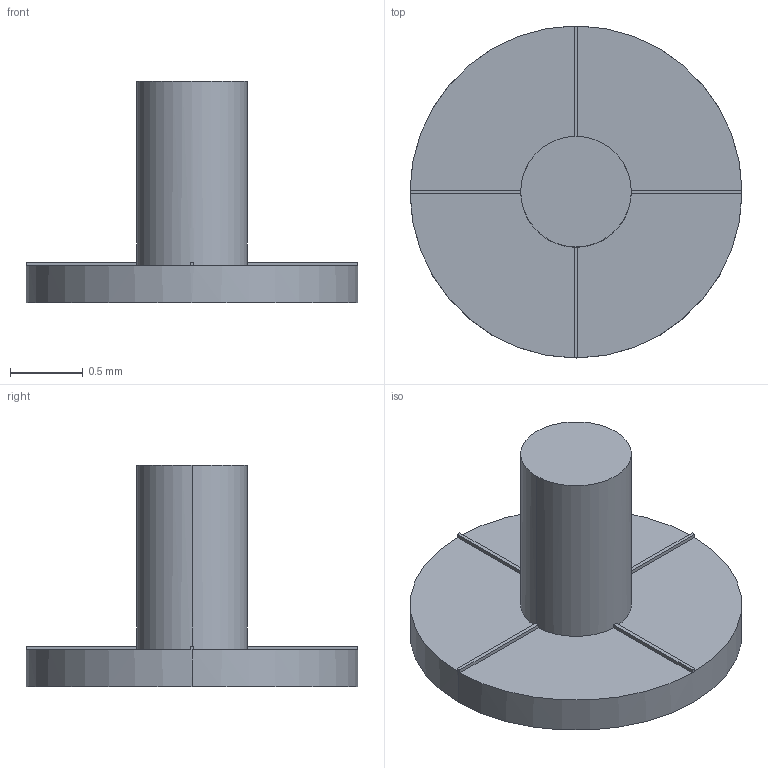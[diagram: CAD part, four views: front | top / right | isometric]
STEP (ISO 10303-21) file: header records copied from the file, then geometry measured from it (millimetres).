
FILE_DESCRIPTION((''),'2;1');
FILE_NAME('CONTACT_SIM_DUMMY-22D','2020-09-24T20:59:29',('ccole'),(''),'CREO PARAMETRIC BY PTC INC, 2019292','CREO PARAMETRIC BY PTC INC, 2019292','');
FILE_SCHEMA(('CONFIG_CONTROL_DESIGN'));
Length unit declared in the file: inch
Products named in the file (1): CONTACT_SIM_DUMMY-22D
Bounding box: 2.29 x 2.29 x 1.52 mm (x, y, z)
Volume: 1.6 mm3; surface area: 13.2 mm2
Topology: 1 solids, 1 shells, 26 faces, 64 edges, 40 vertices
Faces by surface type: plane 22, cylinder 4
Entity records: 802 total; most frequent: CARTESIAN_POINT 142, DIRECTION 128, ORIENTED_EDGE 128, EDGE_CURVE 64, AXIS2_PLACEMENT_3D 44, VECTOR 40, LINE 40, VERTEX_POINT 40
